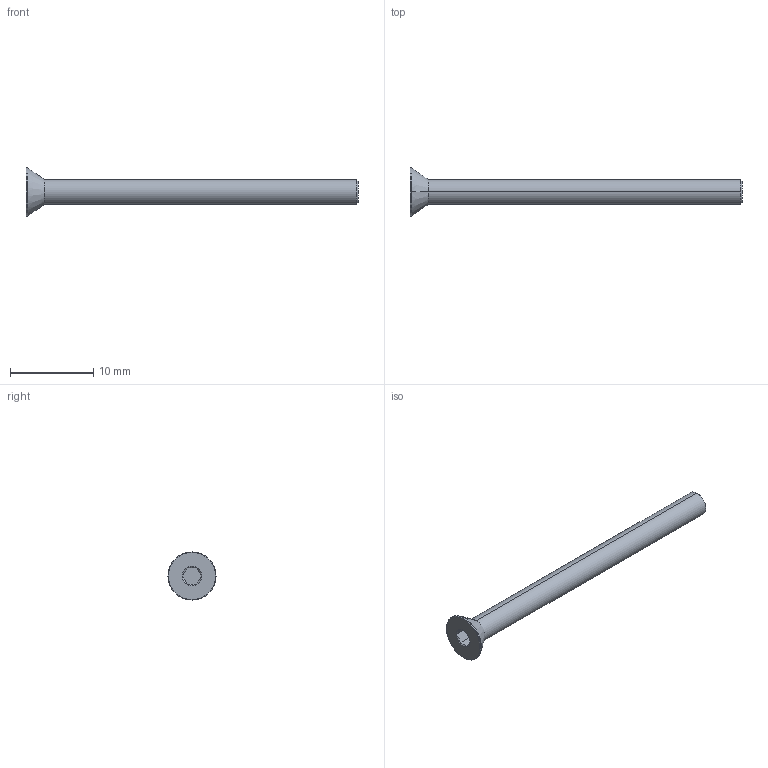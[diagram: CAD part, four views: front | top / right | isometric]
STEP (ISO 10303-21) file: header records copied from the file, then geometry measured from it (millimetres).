
FILE_DESCRIPTION (( 'STEP AP203' ), '1' );
FILE_NAME ('LGDB-304-M3x40.STEP', '2026-08-10T14:06:29', ( '' ), ( '' ), 'SwSTEP 2.0', 'SolidWorks 2020', '' );
FILE_SCHEMA (( 'CONFIG_CONTROL_DESIGN' ));
Length unit declared in the file: millimetre
Products named in the file (1): LGDB-304-M3x40
Bounding box: 40 x 5.8 x 5.8 mm (x, y, z)
Volume: 298.5 mm3; surface area: 435.6 mm2
Topology: 1 solids, 1 shells, 28 faces, 53 edges, 28 vertices
Faces by surface type: cone 11, plane 9, torus 4, cylinder 4
Entity records: 780 total; most frequent: CARTESIAN_POINT 141, DIRECTION 129, ORIENTED_EDGE 106, AXIS2_PLACEMENT_3D 54, EDGE_CURVE 53, EDGE_LOOP 29, VERTEX_POINT 28, FACE_OUTER_BOUND 28
